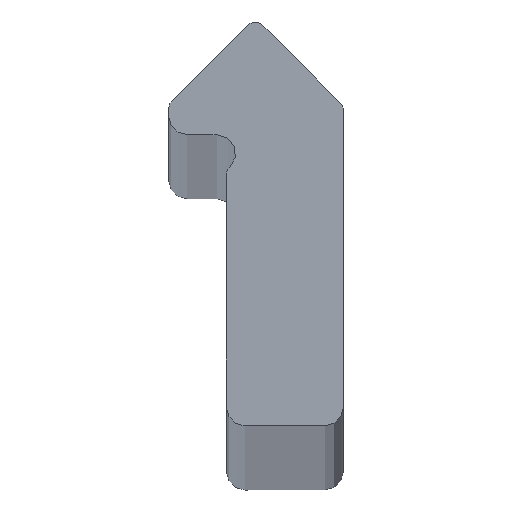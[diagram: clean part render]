
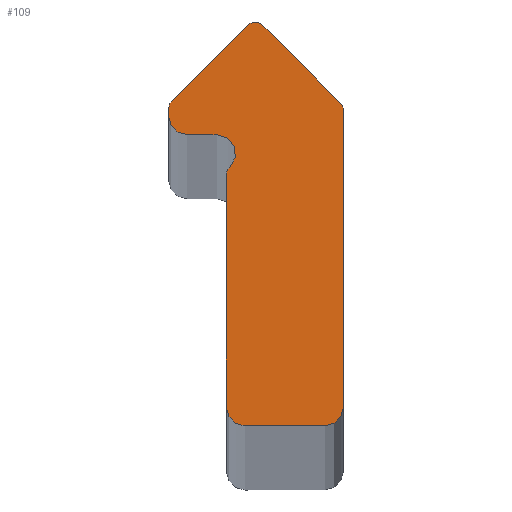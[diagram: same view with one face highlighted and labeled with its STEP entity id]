
A CAD part, top view. The second image highlights one B-rep face of the part: STEP entity #109.
In plain terms, the highlighted planar face has unit normal (0, 0, 1).
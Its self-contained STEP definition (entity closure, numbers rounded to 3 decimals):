
#109=ADVANCED_FACE('',(#143),#144,.T.);
#143=FACE_OUTER_BOUND('',#177,.T.);
#144=PLANE('',#178);
#177=EDGE_LOOP('',(#302,#303,#304,#305,#306,#307,#308,#309,#310,#311,#312,#313,#314,#315,#316));
#178=AXIS2_PLACEMENT_3D('',#317,#318,#319);
#302=ORIENTED_EDGE('',*,*,#332,.T.);
#303=ORIENTED_EDGE('',*,*,#354,.T.);
#304=ORIENTED_EDGE('',*,*,#334,.T.);
#305=ORIENTED_EDGE('',*,*,#364,.T.);
#306=ORIENTED_EDGE('',*,*,#362,.T.);
#307=ORIENTED_EDGE('',*,*,#328,.T.);
#308=ORIENTED_EDGE('',*,*,#322,.T.);
#309=ORIENTED_EDGE('',*,*,#326,.T.);
#310=ORIENTED_EDGE('',*,*,#340,.T.);
#311=ORIENTED_EDGE('',*,*,#343,.T.);
#312=ORIENTED_EDGE('',*,*,#346,.T.);
#313=ORIENTED_EDGE('',*,*,#356,.T.);
#314=ORIENTED_EDGE('',*,*,#358,.T.);
#315=ORIENTED_EDGE('',*,*,#360,.T.);
#316=ORIENTED_EDGE('',*,*,#361,.T.);
#317=CARTESIAN_POINT('',(-1.316,4.959,1000.0));
#318=DIRECTION('',(0.0,0.0,1.0));
#319=DIRECTION('',(1.0,0.0,0.0));
#322=EDGE_CURVE('',#370,#368,#371,.T.);
#326=EDGE_CURVE('',#368,#375,#377,.T.);
#328=EDGE_CURVE('',#380,#370,#381,.T.);
#332=EDGE_CURVE('',#388,#386,#389,.T.);
#334=EDGE_CURVE('',#391,#392,#393,.T.);
#340=EDGE_CURVE('',#375,#401,#403,.T.);
#343=EDGE_CURVE('',#401,#406,#408,.T.);
#346=EDGE_CURVE('',#406,#411,#413,.T.);
#354=EDGE_CURVE('',#386,#391,#425,.T.);
#356=EDGE_CURVE('',#411,#426,#428,.T.);
#358=EDGE_CURVE('',#426,#429,#431,.T.);
#360=EDGE_CURVE('',#429,#432,#434,.T.);
#361=EDGE_CURVE('',#432,#388,#435,.T.);
#362=EDGE_CURVE('',#436,#380,#437,.T.);
#364=EDGE_CURVE('',#392,#436,#439,.T.);
#368=VERTEX_POINT('',#444);
#370=VERTEX_POINT('',#447);
#371=LINE('',#448,#449);
#375=VERTEX_POINT('',#454);
#377=CIRCLE('',#457,0.508);
#380=VERTEX_POINT('',#460);
#381=CIRCLE('',#461,0.508);
#386=VERTEX_POINT('',#468);
#388=VERTEX_POINT('',#471);
#389=LINE('',#472,#473);
#391=VERTEX_POINT('',#476);
#392=VERTEX_POINT('',#477);
#393=LINE('',#478,#479);
#401=VERTEX_POINT('',#490);
#403=CIRCLE('',#493,0.254);
#406=VERTEX_POINT('',#497);
#408=LINE('',#500,#501);
#411=VERTEX_POINT('',#504);
#413=CIRCLE('',#507,0.508);
#425=CIRCLE('',#522,0.25);
#426=VERTEX_POINT('',#523);
#428=LINE('',#526,#527);
#429=VERTEX_POINT('',#528);
#431=CIRCLE('',#531,0.508);
#432=VERTEX_POINT('',#532);
#434=LINE('',#535,#536);
#435=CIRCLE('',#537,0.254);
#436=VERTEX_POINT('',#538);
#437=LINE('',#539,#540);
#439=CIRCLE('',#543,0.254);
#444=CARTESIAN_POINT('',(-0.254,4.244,1000.0));
#447=CARTESIAN_POINT('',(-1.062,4.244,1000.0));
#448=CARTESIAN_POINT('',(-1.062,4.244,1000.0));
#449=VECTOR('',#546,1.0);
#454=CARTESIAN_POINT('',(0.085,3.357,1000.0));
#457=AXIS2_PLACEMENT_3D('',#552,#553,#554);
#460=CARTESIAN_POINT('',(-1.57,4.752,1000.0));
#461=AXIS2_PLACEMENT_3D('',#558,#559,#560);
#468=CARTESIAN_POINT('',(0.967,7.247,1000.0));
#471=CARTESIAN_POINT('',(3.086,5.128,1000.0));
#472=CARTESIAN_POINT('',(3.086,5.128,1000.0));
#473=VECTOR('',#564,1.0);
#476=CARTESIAN_POINT('',(0.613,7.247,1000.0));
#477=CARTESIAN_POINT('',(-1.496,5.138,1000.0));
#478=CARTESIAN_POINT('',(0.79,7.424,1000.0));
#479=VECTOR('',#566,1.0);
#490=CARTESIAN_POINT('',(0.,3.168,1000.0));
#493=AXIS2_PLACEMENT_3D('',#574,#575,#576);
#497=CARTESIAN_POINT('',(0.,-3.168,1000.0));
#500=CARTESIAN_POINT('',(0.,3.168,1000.0));
#501=VECTOR('',#579,1.0);
#504=CARTESIAN_POINT('',(0.508,-3.676,1000.0));
#507=AXIS2_PLACEMENT_3D('',#584,#585,#586);
#522=AXIS2_PLACEMENT_3D('',#602,#603,#604);
#523=CARTESIAN_POINT('',(2.672,-3.676,1000.0));
#526=CARTESIAN_POINT('',(0.508,-3.676,1000.0));
#527=VECTOR('',#606,1.0);
#528=CARTESIAN_POINT('',(3.18,-3.168,1000.0));
#531=AXIS2_PLACEMENT_3D('',#608,#609,#610);
#532=CARTESIAN_POINT('',(3.18,4.931,1000.0));
#535=CARTESIAN_POINT('',(3.18,-3.168,1000.0));
#536=VECTOR('',#612,1.0);
#537=AXIS2_PLACEMENT_3D('',#613,#614,#615);
#538=CARTESIAN_POINT('',(-1.57,4.959,1000.0));
#539=CARTESIAN_POINT('',(-1.57,4.959,1000.0));
#540=VECTOR('',#616,1.0);
#543=AXIS2_PLACEMENT_3D('',#618,#619,#620);
#546=DIRECTION('',(1.0,0.0,0.0));
#552=CARTESIAN_POINT('',(-0.254,3.736,1000.0));
#553=DIRECTION('',(0.0,0.0,-1.0));
#554=DIRECTION('',(-1.0,0.,0.0));
#558=CARTESIAN_POINT('',(-1.062,4.752,1000.0));
#559=DIRECTION('',(0.0,0.0,1.0));
#560=DIRECTION('',(-1.0,0.,0.0));
#564=DIRECTION('',(-0.707,0.707,0.0));
#566=DIRECTION('',(-0.707,-0.707,0.0));
#574=CARTESIAN_POINT('',(0.254,3.168,1000.0));
#575=DIRECTION('',(0.0,0.0,1.0));
#576=DIRECTION('',(-1.0,0.,0.0));
#579=DIRECTION('',(0.,-1.0,0.0));
#584=CARTESIAN_POINT('',(0.508,-3.168,1000.0));
#585=DIRECTION('',(0.0,0.0,1.0));
#586=DIRECTION('',(-1.0,0.,0.0));
#602=CARTESIAN_POINT('',(0.79,7.07,1000.0));
#603=DIRECTION('',(0.0,0.0,1.0));
#604=DIRECTION('',(1.0,0.0,0.0));
#606=DIRECTION('',(1.0,0.0,0.0));
#608=CARTESIAN_POINT('',(2.672,-3.168,1000.0));
#609=DIRECTION('',(0.0,0.0,1.0));
#610=DIRECTION('',(-1.0,0.,0.0));
#612=DIRECTION('',(0.,1.0,0.0));
#613=CARTESIAN_POINT('',(2.926,4.931,1000.0));
#614=DIRECTION('',(0.0,0.0,1.0));
#615=DIRECTION('',(-1.0,0.,0.0));
#616=DIRECTION('',(0.,-1.0,0.0));
#618=CARTESIAN_POINT('',(-1.316,4.959,1000.0));
#619=DIRECTION('',(0.0,0.0,1.0));
#620=DIRECTION('',(-1.0,0.,0.0));
